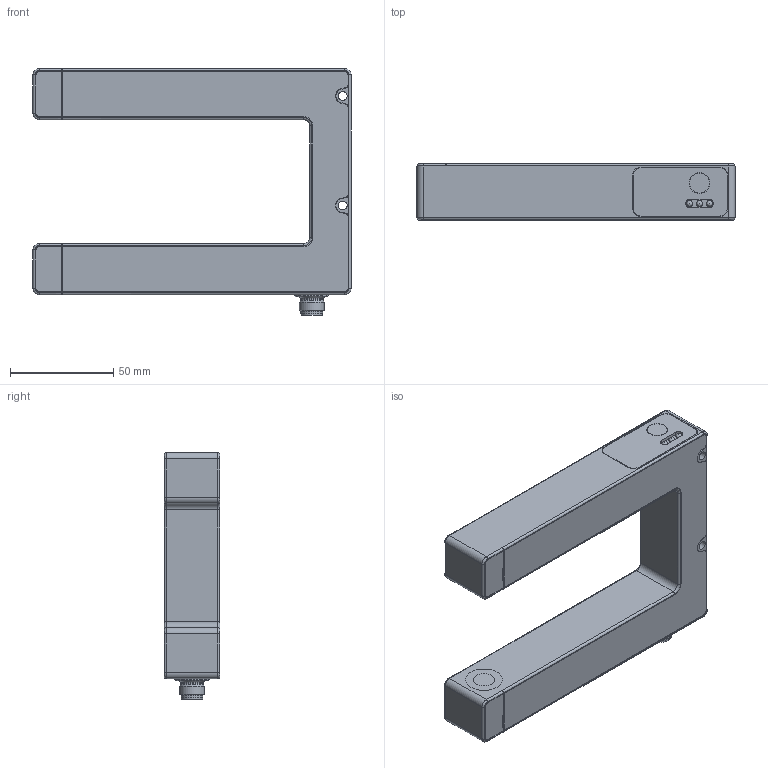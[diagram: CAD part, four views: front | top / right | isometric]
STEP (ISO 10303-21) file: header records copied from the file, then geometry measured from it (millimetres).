
FILE_DESCRIPTION(/* description */ ('XX BENENNUNG XX'),/* implementation_level */ '2;1');
FILE_NAME(/* name */ 'J:\Projekte\Kunststoff-Blechteile\Zeichnungen\Bibliothek Inventor\3D Solids\bks\STP\bks-6_12_CXX.stp',/* time_stamp */ '2020-04-23T16:36:39+02:00',/* author */ ('Oliver Liedtke'),/* organization */ (''),/* preprocessor_version */ 'ST-DEVELOPER v18',/* originating_system */ 'Autodesk Inventor 2020',/* authorisation */ '');
FILE_SCHEMA (('AUTOMOTIVE_DESIGN { 1 0 10303 214 3 1 1 }'));
Length unit declared in the file: millimetre
Products named in the file (1): bks-6_12_CXX
Bounding box: 154 x 27 x 119.5 mm (x, y, z)
Volume: 236893.4 mm3; surface area: 45380 mm2
Topology: 1 solids, 1 shells, 221 faces, 602 edges, 398 vertices
Faces by surface type: plane 108, cylinder 84, torus 18, sphere 5, bspline 3, cone 3
Full cylindrical faces by diameter (mm): 1 x5, 4.2 x2, 8.3 x1, 9.7 x1, 10 x1, 10.4 x3, 10.5 x1, 10.95 x1, 12 x1, 16.5 x1, 18 x2
Entity records: 7285 total; most frequent: DIRECTION 1298, CARTESIAN_POINT 1295, ORIENTED_EDGE 1194, EDGE_CURVE 597, AXIS2_PLACEMENT_3D 482, VERTEX_POINT 398, LINE 334, VECTOR 334
